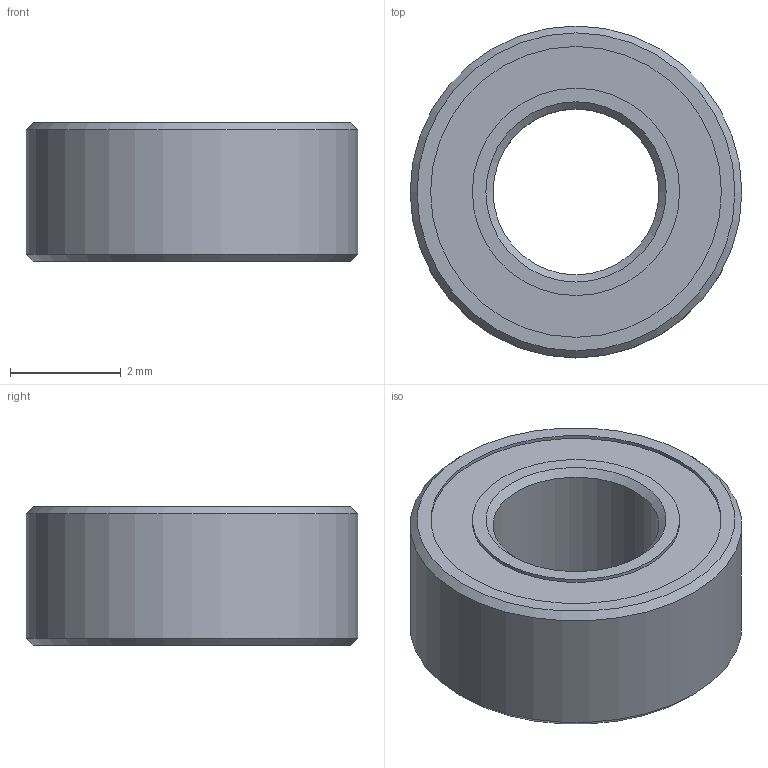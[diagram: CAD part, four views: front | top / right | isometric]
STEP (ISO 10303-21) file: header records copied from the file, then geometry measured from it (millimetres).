
FILE_DESCRIPTION(/* description */ (''),/* implementation_level */ '2;1');
FILE_NAME(/* name */ '3x6x2.5 Bearing.step',/* time_stamp */ '2024-09-30T03:16:48-07:00',/* author */ (''),/* organization */ (''),/* preprocessor_version */ 'ST-DEVELOPER v20',/* originating_system */ 'Autodesk Translation Framework v13.20.0.188',/* authorisation */ '');
FILE_SCHEMA (('AUTOMOTIVE_DESIGN { 1 0 10303 214 3 1 1 }'));
Length unit declared in the file: millimetre
Products named in the file (1): 7487N45_Precision Stainless Steel Ball Bearing
Bounding box: 6 x 6 x 2.5 mm (x, y, z)
Volume: 58.3 mm3; surface area: 366.9 mm2
Topology: 13 solids, 13 shells, 40 faces, 81 edges, 51 vertices
Faces by surface type: cylinder 13, plane 10, sphere 8, cone 6, torus 3
Full cylindrical faces by diameter (mm): 3 x1, 3.75 x4, 5.26 x6, 6 x2
Entity records: 1027 total; most frequent: DIRECTION 193, CARTESIAN_POINT 157, ORIENTED_EDGE 130, AXIS2_PLACEMENT_3D 87, EDGE_CURVE 65, VERTEX_POINT 51, EDGE_LOOP 50, CIRCLE 46
